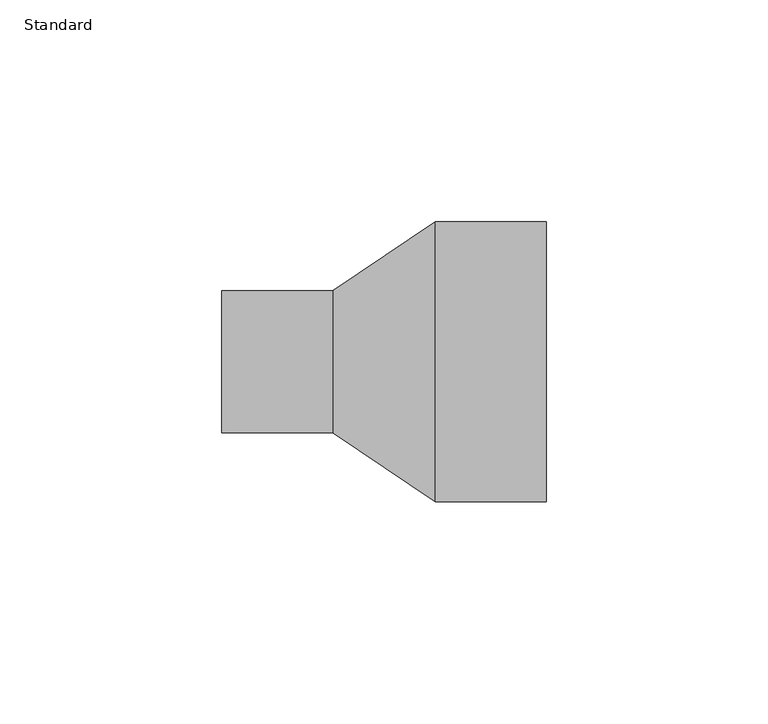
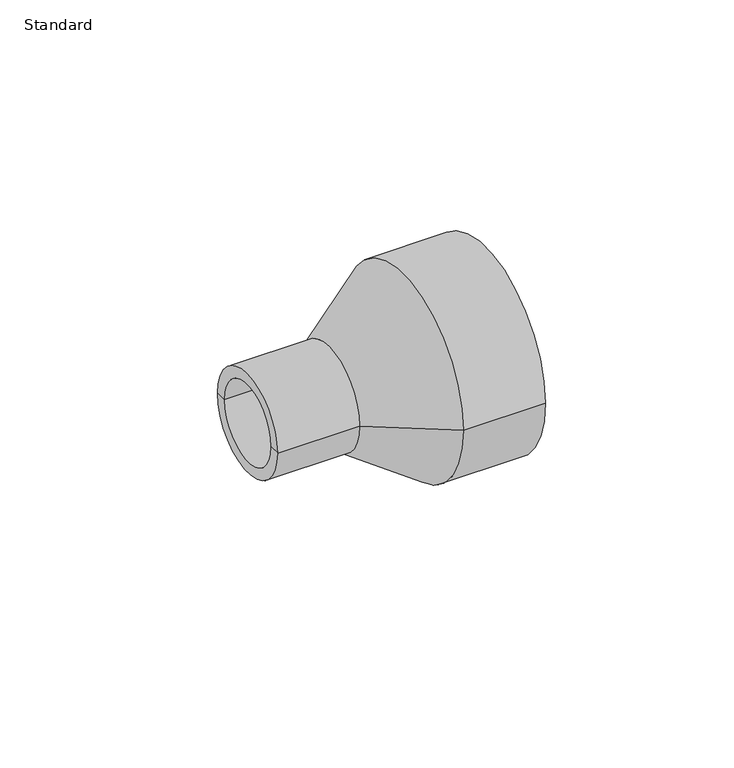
"""IFC4 building model written with IfcOpenShell, lengths in millimetres: pipe fitting geometry, Durapipe_PipeFitting_PVC_Reducers : Standard."""

from ifc_helpers import new_model, si_unit, frame, origin, place, context, project, spatial, polyline, circle_curve, source, transform, mapped, element, save
from ifc_brep_helpers import plane_surface, cylinder_surface, revolved_surface, advanced_brep


def standard_f9ea2102(model_context):
    return source(origin(), model_context, "Body", "AdvancedBrep", [
        advanced_brep(
        [(-36.5, -16.0, 0.0), (-36.5, 16.0, 0.0), (-11.5, 16.0, 0.0), (-11.5, -16.0, 0.0), (-36.5, -12.5, 0.0), (-36.5, 12.5, 0.0), (36.5, -31.5, 0.0), (36.5, 31.5, 0.0), (36.5, 25.0, 0.0), (36.5, -25.0, 0.0), (11.5, -31.5, 0.0), (11.5, 31.5, 0.0), (-11.5, -12.5, 0.0), (-11.5, 12.5, 0.0), (-11.5, 0.0, 0.0), (11.5, -25.0, 0.0), (11.5, 25.0, 0.0), (11.5, 0.0, 0.0)],
        [
            (0, 1, circle_curve(frame((-36.5, 0.0, 0.0), z_axis=(1.0, 0.0, 0.0), x_axis=(0.0, 1.0, 0.0)), 16.0)),
            (1, 2),
            (2, 3, circle_curve(frame((-11.5, 0.0, 0.0), z_axis=(-1.0, 0.0, 0.0), x_axis=(0.0, 1.0, 0.0)), 16.0)),
            (3, 0),
            (1, 0, circle_curve(frame((-36.5, 0.0, 0.0), z_axis=(1.0, 0.0, 0.0), x_axis=(0.0, 1.0, 0.0)), 16.0)),
            (3, 2, circle_curve(frame((-11.5, 0.0, 0.0), z_axis=(-1.0, 0.0, 0.0), x_axis=(0.0, 1.0, 0.0)), 16.0)),
            (4, 5, circle_curve(frame((-36.5, 0.0, 0.0), z_axis=(1.0, 0.0, 0.0), x_axis=(0.0, 1.0, 0.0)), 12.5)),
            (5, 1),
            (0, 4),
            (5, 4, circle_curve(frame((-36.5, 0.0, 0.0), z_axis=(1.0, 0.0, 0.0), x_axis=(0.0, 1.0, 0.0)), 12.5)),
            (6, 7, circle_curve(frame((36.5, 0.0, 0.0), z_axis=(1.0, 0.0, 0.0), x_axis=(0.0, 1.0, 0.0)), 31.5)),
            (7, 8),
            (8, 9, circle_curve(frame((36.5, 0.0, 0.0), z_axis=(-1.0, 0.0, 0.0), x_axis=(0.0, 1.0, 0.0)), 25.0)),
            (9, 6),
            (7, 6, circle_curve(frame((36.5, 0.0, 0.0), z_axis=(1.0, 0.0, 0.0), x_axis=(0.0, 1.0, 0.0)), 31.5)),
            (9, 8, circle_curve(frame((36.5, 0.0, 0.0), z_axis=(-1.0, 0.0, 0.0), x_axis=(0.0, 1.0, 0.0)), 25.0)),
            (10, 11, circle_curve(frame((11.5, 0.0, 0.0), z_axis=(1.0, 0.0, 0.0), x_axis=(0.0, 1.0, 0.0)), 31.5)),
            (11, 7),
            (6, 10),
            (11, 10, circle_curve(frame((11.5, 0.0, 0.0), z_axis=(1.0, 0.0, 0.0), x_axis=(0.0, 1.0, 0.0)), 31.5)),
            (2, 11),
            (10, 3),
            (12, 13, circle_curve(frame((-11.5, 0.0, 0.0), z_axis=(1.0, 0.0, 0.0), x_axis=(0.0, 1.0, 0.0)), 12.5)),
            (13, 5),
            (4, 12),
            (13, 12, circle_curve(frame((-11.5, 0.0, 0.0), z_axis=(1.0, 0.0, 0.0), x_axis=(0.0, 1.0, 0.0)), 12.5)),
            (14, 13),
            (12, 14),
            (15, 16, circle_curve(frame((11.5, 0.0, 0.0), z_axis=(1.0, 0.0, 0.0), x_axis=(0.0, 1.0, 0.0)), 25.0)),
            (16, 17),
            (17, 15),
            (16, 15, circle_curve(frame((11.5, 0.0, 0.0), z_axis=(1.0, 0.0, 0.0), x_axis=(0.0, 1.0, 0.0)), 25.0)),
            (8, 16),
            (15, 9),
        ],
        [
            cylinder_surface(frame((-36.5, 0.0, 0.0), z_axis=(-1.0, 0.0, 0.0), x_axis=(0.0, 1.0, 0.0)), 16.0),
            plane_surface(frame((-36.5, 0.0, 0.0), z_axis=(-1.0, 0.0, 0.0), x_axis=(0.0, 1.0, 0.0))),
            plane_surface(frame((36.5, 0.0, 0.0), z_axis=(1.0, 0.0, 0.0), x_axis=(0.0, 1.0, 0.0))),
            cylinder_surface(frame((-36.5, 0.0, 0.0), z_axis=(-1.0, 0.0, 0.0), x_axis=(0.0, 1.0, 0.0)), 31.5),
            revolved_surface(polyline([(11.5, 31.5, 0.0), (-11.5, 16.0, 0.0)]), (-36.5, 0.0, 0.0), (-1.0, 0.0, 0.0)),
            revolved_surface(polyline([(-36.5, 12.5, 0.0), (-11.5, 12.5, 0.0)]), (-36.5, 0.0, 0.0), (-1.0, 0.0, 0.0)),
            plane_surface(frame((-11.5, 0.0, 0.0), z_axis=(-1.0, 0.0, 0.0), x_axis=(0.0, 1.0, 0.0))),
            plane_surface(frame((11.5, 0.0, 0.0), z_axis=(1.0, 0.0, 0.0), x_axis=(0.0, 1.0, 0.0))),
            revolved_surface(polyline([(11.5, 25.0, 0.0), (36.5, 25.0, 0.0)]), (-36.5, 0.0, 0.0), (-1.0, 0.0, 0.0)),
        ],
        [
            (0, [[1, 2, 3, 4]]),
            (0, [[5, -4, 6, -2]]),
            (1, [[7, 8, -1, 9]]),
            (1, [[10, -9, -5, -8]]),
            (2, [[11, 12, 13, 14]]),
            (2, [[15, -14, 16, -12]]),
            (3, [[17, 18, -11, 19]]),
            (3, [[20, -19, -15, -18]]),
            (4, [[-3, 21, -17, 22]]),
            (4, [[-6, -22, -20, -21]]),
            (5, [[23, 24, -7, 25]]),
            (5, [[26, -25, -10, -24]]),
            (6, [[27, -23, 28]]),
            (6, [[-28, -26, -27]]),
            (7, [[29, 30, 31]]),
            (7, [[32, -31, -30]]),
            (8, [[-13, 33, -29, 34]]),
            (8, [[-16, -34, -32, -33]]),
        ],
    ),
    ])


if __name__ == "__main__":
    model = new_model("IFC4")
    model_context = context("Model", 3, world=origin())
    ifc_project = project(units=[si_unit("LENGTHUNIT", "METRE", prefix="MILLI")], contexts=[model_context])
    site = spatial("IfcSite", under=ifc_project)
    building = spatial("IfcBuilding", under=site)
    placement = place(None, origin())
    standard_shape = standard_f9ea2102(model_context)
    element("IfcPipeFitting", 1, ObjectType="Durapipe_PipeFitting_PVC_Reducers : Standard", at=placement, inside=building, context=model_context, shape_type="MappedRepresentation", body=[
        mapped(standard_shape, transform((0.0, 0.0, 0.0), x_axis=(1.0, 0.0, 0.0), y_axis=(0.0, 1.0, 0.0), z_axis=(0.0, 0.0, 1.0))),
    ])
    save(model, "model.ifc")
